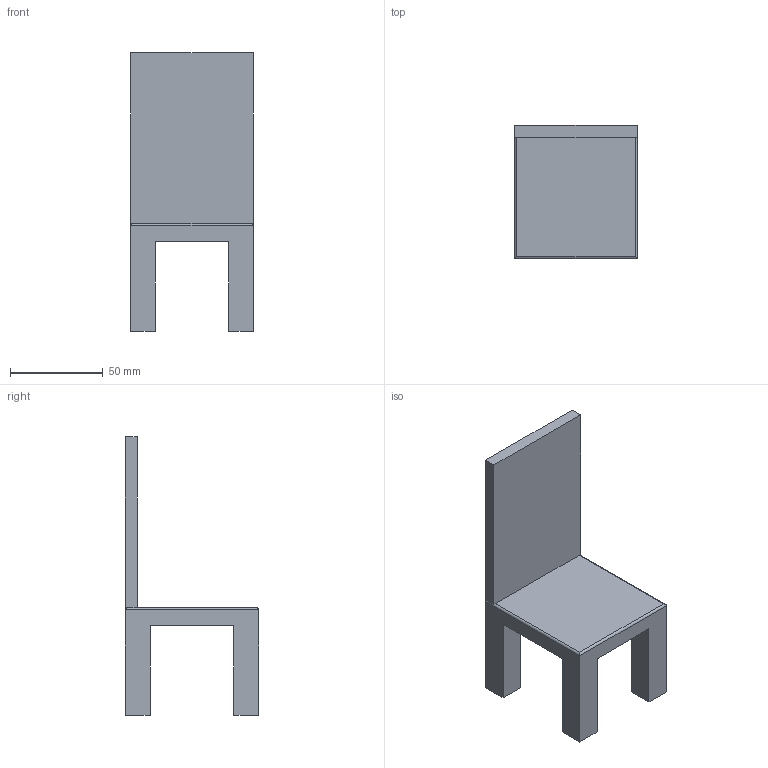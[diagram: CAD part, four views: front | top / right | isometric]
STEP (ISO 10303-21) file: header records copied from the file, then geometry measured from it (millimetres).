
FILE_DESCRIPTION(('Open CASCADE Model'),'2;1');
FILE_NAME('Open CASCADE Shape Model','2026-09-09T00:35:40',('Author'),( 'Open CASCADE'),'Open CASCADE STEP processor 7.7','Open CASCADE 7.7' ,'Unknown');
FILE_SCHEMA(('AUTOMOTIVE_DESIGN { 1 0 10303 214 1 1 1 1 }'));
Length unit declared in the file: millimetre
Products named in the file (1): Open CASCADE STEP translator 7.7 1
Bounding box: 66.37 x 71.94 x 150.65 mm (x, y, z)
Volume: 120409.3 mm3; surface area: 36095.1 mm2
Topology: 1 solids, 1 shells, 28 faces, 72 edges, 46 vertices
Faces by surface type: plane 24, cylinder 4
Entity records: 1818 total; most frequent: CARTESIAN_POINT 347, DIRECTION 270, LINE 204, VECTOR 204, ORIENTED_EDGE 144, PCURVE 144, DEFINITIONAL_REPRESENTATION 144, EDGE_CURVE 72
